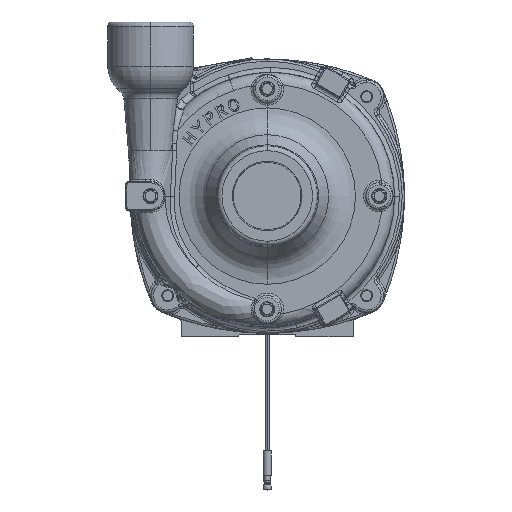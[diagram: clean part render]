
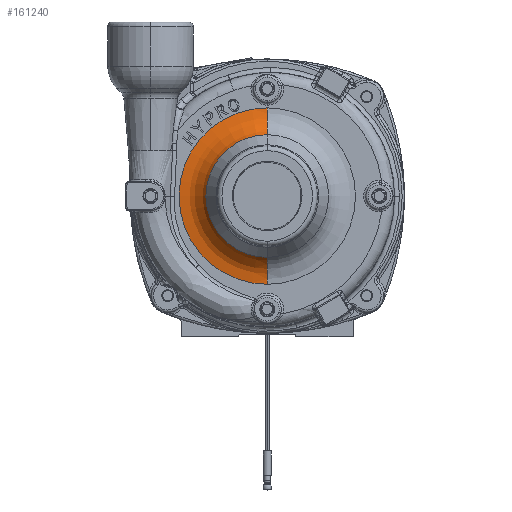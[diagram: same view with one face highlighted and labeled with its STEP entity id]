
A CAD part, top view. The second image highlights one B-rep face of the part: STEP entity #161240.
In plain terms, the highlighted toroidal (fillet/blend) face has major radius 58.725 mm and minor radius 20.637 mm.
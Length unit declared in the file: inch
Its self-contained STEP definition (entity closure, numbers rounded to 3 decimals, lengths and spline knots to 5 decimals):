
#5624 = CIRCLE ( 'NONE', #146384, 1.60835 ) ;
#13548 = CARTESIAN_POINT ( 'NONE',  ( 0., 2.312, 5.7725 ) ) ;
#22050 = EDGE_LOOP ( 'NONE', ( #119074, #135934, #69150, #142559 ) ) ;
#28569 = AXIS2_PLACEMENT_3D ( 'NONE', #102846, #41451, #144186 ) ;
#31240 = CIRCLE ( 'NONE', #184033, 2.312 ) ;
#36270 = FACE_OUTER_BOUND ( 'NONE', #22050, .T. ) ;
#41451 = DIRECTION ( 'NONE',  ( 0., 0., -1. ) ) ;
#49909 = CARTESIAN_POINT ( 'NONE',  ( 0., -2.312, 5.7725 ) ) ;
#51328 = CARTESIAN_POINT ( 'NONE',  ( 0., 0., 4.96 ) ) ;
#54738 = DIRECTION ( 'NONE',  ( 0., 0., -1. ) ) ;
#57615 = VERTEX_POINT ( 'NONE', #113952 ) ;
#59194 = AXIS2_PLACEMENT_3D ( 'NONE', #49909, #157939, #126217 ) ;
#59452 = DIRECTION ( 'NONE',  ( 0., 0., 1. ) ) ;
#64467 = CARTESIAN_POINT ( 'NONE',  ( 0., 2.312, 4.96 ) ) ;
#69150 = ORIENTED_EDGE ( 'NONE', *, *, #153090, .T. ) ;
#72205 = VERTEX_POINT ( 'NONE', #198449 ) ;
#78192 = CIRCLE ( 'NONE', #59194, 0.8125 ) ;
#82697 = EDGE_CURVE ( 'NONE', #171473, #72205, #78192, .T. ) ;
#87412 = CIRCLE ( 'NONE', #92939, 0.8125 ) ;
#92939 = AXIS2_PLACEMENT_3D ( 'NONE', #13548, #151899, #59452 ) ;
#96373 = DIRECTION ( 'NONE',  ( 0., 0., -1. ) ) ;
#101254 = DIRECTION ( 'NONE',  ( 0., 1., 0. ) ) ;
#102846 = CARTESIAN_POINT ( 'NONE',  ( 0., 0., 5.7725 ) ) ;
#110946 = TOROIDAL_SURFACE ( 'NONE', #28569, 2.312, 0.8125 ) ;
#113952 = CARTESIAN_POINT ( 'NONE',  ( 0., 1.60835, 5.36625 ) ) ;
#119074 = ORIENTED_EDGE ( 'NONE', *, *, #167987, .F. ) ;
#126217 = DIRECTION ( 'NONE',  ( 0., 0., -1. ) ) ;
#135934 = ORIENTED_EDGE ( 'NONE', *, *, #82697, .T. ) ;
#142559 = ORIENTED_EDGE ( 'NONE', *, *, #173099, .F. ) ;
#144186 = DIRECTION ( 'NONE',  ( 0., 1., 0. ) ) ;
#146384 = AXIS2_PLACEMENT_3D ( 'NONE', #156542, #96373, #171466 ) ;
#151866 = CARTESIAN_POINT ( 'NONE',  ( 0., -2.312, 4.96 ) ) ;
#151899 = DIRECTION ( 'NONE',  ( -1., 0., 0. ) ) ;
#153090 = EDGE_CURVE ( 'NONE', #72205, #57615, #5624, .T. ) ;
#156542 = CARTESIAN_POINT ( 'NONE',  ( 0., 0., 5.36625 ) ) ;
#157939 = DIRECTION ( 'NONE',  ( 1., 0., 0. ) ) ;
#161240 = ADVANCED_FACE ( 'NONE', ( #36270 ), #110946, .F. ) ;
#167987 = EDGE_CURVE ( 'NONE', #171473, #190425, #31240, .T. ) ;
#171466 = DIRECTION ( 'NONE',  ( 0., 1., 0. ) ) ;
#171473 = VERTEX_POINT ( 'NONE', #151866 ) ;
#173099 = EDGE_CURVE ( 'NONE', #190425, #57615, #87412, .T. ) ;
#184033 = AXIS2_PLACEMENT_3D ( 'NONE', #51328, #54738, #101254 ) ;
#190425 = VERTEX_POINT ( 'NONE', #64467 ) ;
#198449 = CARTESIAN_POINT ( 'NONE',  ( 0., -1.60835, 5.36625 ) ) ;
